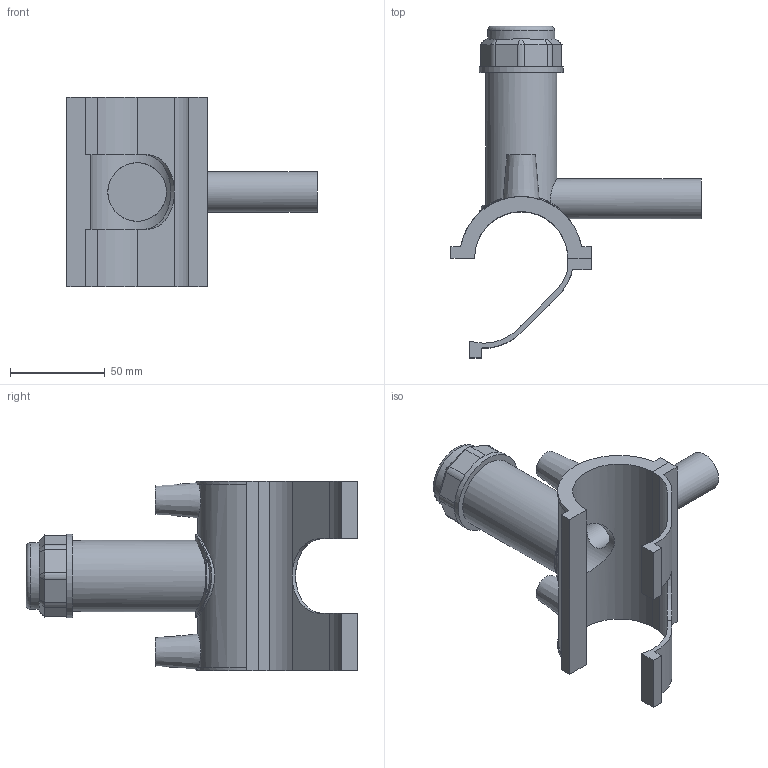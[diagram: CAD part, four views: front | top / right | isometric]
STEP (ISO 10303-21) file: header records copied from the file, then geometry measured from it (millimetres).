
FILE_DESCRIPTION(/* description */ ('PLASSON TAPPING SADDLE 1 1/2''''IPS x 1 1/2''''IPS'),/* implementation_level */ '2;1');
FILE_NAME(/* name */ 'C:\Dropbox\KIMPROJECTS-Inventor 2019\99-16-3568-Processing Inch\ASTM ElectroFusion 2021\5963B\5963BB03015005.ipt.stp',/* time_stamp */ '2021-08-30T09:54:51+03:00',/* author */ ('KIM'),/* organization */ (''),/* preprocessor_version */ 'ST-DEVELOPER v17.2',/* originating_system */ 'Autodesk Inventor 2019',/* authorisation */ '');
FILE_SCHEMA (('AUTOMOTIVE_DESIGN { 1 0 10303 214 3 1 1 }'));
Length unit declared in the file: millimetre
Products named in the file (1): 5963BB03015005
Bounding box: 132.08 x 175.14 x 100.08 mm (x, y, z)
Volume: 162371.5 mm3; surface area: 69870.1 mm2
Topology: 2 solids, 2 shells, 111 faces, 290 edges, 191 vertices
Faces by surface type: plane 66, cylinder 32, cone 11, torus 1, bspline 1
Full cylindrical faces by diameter (mm): 4 x2, 10 x2, 16.96 x1, 21.2 x1, 30.933 x1, 35.352 x1, 37.562 x1, 44.19 x1
Entity records: 3915 total; most frequent: CARTESIAN_POINT 1112, ORIENTED_EDGE 580, DIRECTION 577, EDGE_CURVE 290, AXIS2_PLACEMENT_3D 210, VERTEX_POINT 191, LINE 157, VECTOR 157
